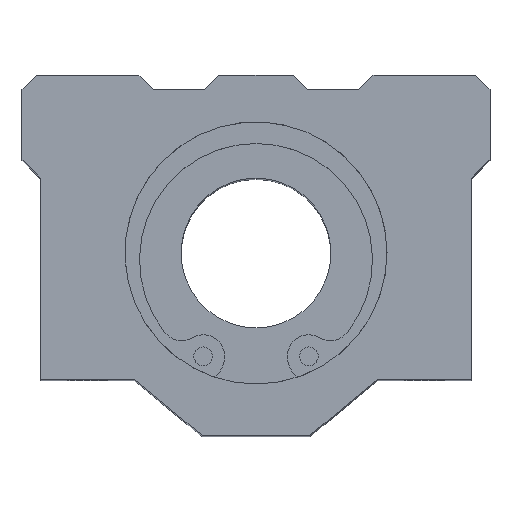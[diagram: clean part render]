
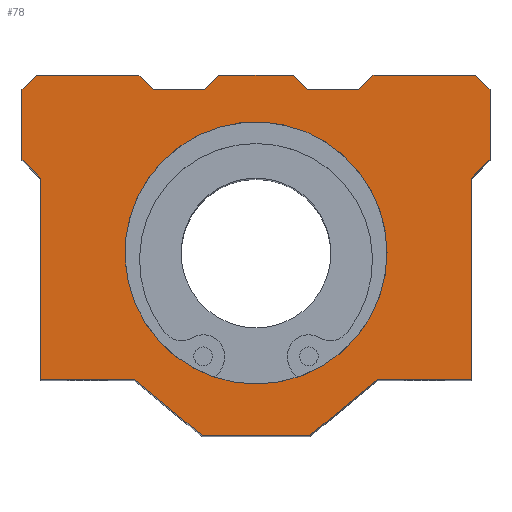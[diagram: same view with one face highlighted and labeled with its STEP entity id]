
A CAD part, top view. The second image highlights one B-rep face of the part: STEP entity #78.
In plain terms, the highlighted planar face has unit normal (0, 0, 1).
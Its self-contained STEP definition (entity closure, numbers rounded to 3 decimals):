
#78=ADVANCED_FACE('',(#150,#151),#152,.T.);
#150=FACE_OUTER_BOUND('',#311,.T.);
#151=FACE_BOUND('',#312,.T.);
#152=PLANE('',#313);
#311=EDGE_LOOP('',(#508,#509,#510,#511,#512,#513,#514,#515,#516,#517,#518,#519,#520,#521,#522,#523,#524,#525,#526,#527,#528,#529));
#312=EDGE_LOOP('',(#530));
#313=AXIS2_PLACEMENT_3D('',#531,#532,#533);
#508=ORIENTED_EDGE('',*,*,#993,.T.);
#509=ORIENTED_EDGE('',*,*,#994,.T.);
#510=ORIENTED_EDGE('',*,*,#995,.T.);
#511=ORIENTED_EDGE('',*,*,#996,.T.);
#512=ORIENTED_EDGE('',*,*,#997,.T.);
#513=ORIENTED_EDGE('',*,*,#998,.T.);
#514=ORIENTED_EDGE('',*,*,#999,.T.);
#515=ORIENTED_EDGE('',*,*,#1000,.T.);
#516=ORIENTED_EDGE('',*,*,#1001,.T.);
#517=ORIENTED_EDGE('',*,*,#1002,.T.);
#518=ORIENTED_EDGE('',*,*,#1003,.T.);
#519=ORIENTED_EDGE('',*,*,#1004,.T.);
#520=ORIENTED_EDGE('',*,*,#1005,.T.);
#521=ORIENTED_EDGE('',*,*,#1006,.T.);
#522=ORIENTED_EDGE('',*,*,#1007,.T.);
#523=ORIENTED_EDGE('',*,*,#1008,.T.);
#524=ORIENTED_EDGE('',*,*,#1009,.T.);
#525=ORIENTED_EDGE('',*,*,#1010,.T.);
#526=ORIENTED_EDGE('',*,*,#1011,.T.);
#527=ORIENTED_EDGE('',*,*,#1012,.T.);
#528=ORIENTED_EDGE('',*,*,#1013,.T.);
#529=ORIENTED_EDGE('',*,*,#1014,.T.);
#530=ORIENTED_EDGE('',*,*,#1015,.T.);
#531=CARTESIAN_POINT('',(-18.0,24.5,42.5));
#532=DIRECTION('',(0.0,-0.0,1.0));
#533=DIRECTION('',(0.0,1.0,0.0));
#993=EDGE_CURVE('',#1178,#1179,#1180,.T.);
#994=EDGE_CURVE('',#1179,#1181,#1182,.T.);
#995=EDGE_CURVE('',#1181,#1183,#1184,.T.);
#996=EDGE_CURVE('',#1183,#1185,#1186,.T.);
#997=EDGE_CURVE('',#1185,#1187,#1188,.T.);
#998=EDGE_CURVE('',#1187,#1189,#1190,.T.);
#999=EDGE_CURVE('',#1189,#1191,#1192,.T.);
#1000=EDGE_CURVE('',#1191,#1193,#1194,.T.);
#1001=EDGE_CURVE('',#1193,#1195,#1196,.T.);
#1002=EDGE_CURVE('',#1195,#1197,#1198,.T.);
#1003=EDGE_CURVE('',#1197,#1199,#1200,.T.);
#1004=EDGE_CURVE('',#1199,#1201,#1202,.T.);
#1005=EDGE_CURVE('',#1201,#1203,#1204,.T.);
#1006=EDGE_CURVE('',#1203,#1205,#1206,.T.);
#1007=EDGE_CURVE('',#1205,#1207,#1208,.T.);
#1008=EDGE_CURVE('',#1207,#1209,#1210,.T.);
#1009=EDGE_CURVE('',#1209,#1211,#1212,.T.);
#1010=EDGE_CURVE('',#1211,#1213,#1214,.T.);
#1011=EDGE_CURVE('',#1213,#1215,#1216,.T.);
#1012=EDGE_CURVE('',#1215,#1217,#1218,.T.);
#1013=EDGE_CURVE('',#1217,#1219,#1220,.T.);
#1014=EDGE_CURVE('',#1219,#1178,#1221,.T.);
#1015=EDGE_CURVE('',#1222,#1222,#1223,.F.);
#1178=VERTEX_POINT('',#1460);
#1179=VERTEX_POINT('',#1461);
#1180=LINE('',#1462,#1463);
#1181=VERTEX_POINT('',#1464);
#1182=LINE('',#1465,#1466);
#1183=VERTEX_POINT('',#1467);
#1184=LINE('',#1468,#1469);
#1185=VERTEX_POINT('',#1470);
#1186=LINE('',#1471,#1472);
#1187=VERTEX_POINT('',#1473);
#1188=LINE('',#1474,#1475);
#1189=VERTEX_POINT('',#1476);
#1190=LINE('',#1477,#1478);
#1191=VERTEX_POINT('',#1479);
#1192=LINE('',#1480,#1481);
#1193=VERTEX_POINT('',#1482);
#1194=LINE('',#1483,#1484);
#1195=VERTEX_POINT('',#1485);
#1196=LINE('',#1486,#1487);
#1197=VERTEX_POINT('',#1488);
#1198=LINE('',#1489,#1490);
#1199=VERTEX_POINT('',#1491);
#1200=LINE('',#1492,#1493);
#1201=VERTEX_POINT('',#1494);
#1202=LINE('',#1495,#1496);
#1203=VERTEX_POINT('',#1497);
#1204=LINE('',#1498,#1499);
#1205=VERTEX_POINT('',#1500);
#1206=LINE('',#1501,#1502);
#1207=VERTEX_POINT('',#1503);
#1208=LINE('',#1504,#1505);
#1209=VERTEX_POINT('',#1506);
#1210=LINE('',#1507,#1508);
#1211=VERTEX_POINT('',#1509);
#1212=LINE('',#1510,#1511);
#1213=VERTEX_POINT('',#1512);
#1214=LINE('',#1513,#1514);
#1215=VERTEX_POINT('',#1515);
#1216=LINE('',#1516,#1517);
#1217=VERTEX_POINT('',#1518);
#1218=LINE('',#1519,#1520);
#1219=VERTEX_POINT('',#1521);
#1220=LINE('',#1522,#1523);
#1221=LINE('',#1524,#1525);
#1222=VERTEX_POINT('',#1526);
#1223=CIRCLE('',#1527,14.0);
#1460=CARTESIAN_POINT('',(-11.0,17.5,42.5));
#1461=CARTESIAN_POINT('',(-12.5,19.0,42.5));
#1462=CARTESIAN_POINT('',(-11.0,17.5,42.5));
#1463=VECTOR('',#1775,1.0);
#1464=CARTESIAN_POINT('',(-23.5,19.0,42.5));
#1465=CARTESIAN_POINT('',(-12.5,19.0,42.5));
#1466=VECTOR('',#1776,1.0);
#1467=CARTESIAN_POINT('',(-25.0,17.5,42.5));
#1468=CARTESIAN_POINT('',(-23.5,19.0,42.5));
#1469=VECTOR('',#1777,1.0);
#1470=CARTESIAN_POINT('',(-25.0,10.0,42.5));
#1471=CARTESIAN_POINT('',(-25.0,17.5,42.5));
#1472=VECTOR('',#1778,1.0);
#1473=CARTESIAN_POINT('',(-23.0,8.0,42.5));
#1474=CARTESIAN_POINT('',(-25.0,10.0,42.5));
#1475=VECTOR('',#1779,1.0);
#1476=CARTESIAN_POINT('',(-23.0,-13.5,42.5));
#1477=CARTESIAN_POINT('',(-23.0,8.0,42.5));
#1478=VECTOR('',#1780,1.0);
#1479=CARTESIAN_POINT('',(-13.0,-13.5,42.5));
#1480=CARTESIAN_POINT('',(-23.0,-13.5,42.5));
#1481=VECTOR('',#1781,1.0);
#1482=CARTESIAN_POINT('',(-5.75,-19.5,42.5));
#1483=CARTESIAN_POINT('',(-13.0,-13.5,42.5));
#1484=VECTOR('',#1782,1.0);
#1485=CARTESIAN_POINT('',(5.75,-19.5,42.5));
#1486=CARTESIAN_POINT('',(-5.75,-19.5,42.5));
#1487=VECTOR('',#1783,1.0);
#1488=CARTESIAN_POINT('',(13.0,-13.5,42.5));
#1489=CARTESIAN_POINT('',(5.75,-19.5,42.5));
#1490=VECTOR('',#1784,1.0);
#1491=CARTESIAN_POINT('',(23.0,-13.5,42.5));
#1492=CARTESIAN_POINT('',(13.0,-13.5,42.5));
#1493=VECTOR('',#1785,1.0);
#1494=CARTESIAN_POINT('',(23.0,8.0,42.5));
#1495=CARTESIAN_POINT('',(23.0,-13.5,42.5));
#1496=VECTOR('',#1786,1.0);
#1497=CARTESIAN_POINT('',(25.0,10.0,42.5));
#1498=CARTESIAN_POINT('',(23.0,8.0,42.5));
#1499=VECTOR('',#1787,1.0);
#1500=CARTESIAN_POINT('',(25.0,17.5,42.5));
#1501=CARTESIAN_POINT('',(25.0,10.0,42.5));
#1502=VECTOR('',#1788,1.0);
#1503=CARTESIAN_POINT('',(23.5,19.0,42.5));
#1504=CARTESIAN_POINT('',(25.0,17.5,42.5));
#1505=VECTOR('',#1789,1.0);
#1506=CARTESIAN_POINT('',(12.5,19.0,42.5));
#1507=CARTESIAN_POINT('',(23.5,19.0,42.5));
#1508=VECTOR('',#1790,1.0);
#1509=CARTESIAN_POINT('',(11.0,17.5,42.5));
#1510=CARTESIAN_POINT('',(12.5,19.0,42.5));
#1511=VECTOR('',#1791,1.0);
#1512=CARTESIAN_POINT('',(5.5,17.5,42.5));
#1513=CARTESIAN_POINT('',(11.0,17.5,42.5));
#1514=VECTOR('',#1792,1.0);
#1515=CARTESIAN_POINT('',(4.0,19.0,42.5));
#1516=CARTESIAN_POINT('',(5.5,17.5,42.5));
#1517=VECTOR('',#1793,1.0);
#1518=CARTESIAN_POINT('',(-4.0,19.0,42.5));
#1519=CARTESIAN_POINT('',(4.0,19.0,42.5));
#1520=VECTOR('',#1794,1.0);
#1521=CARTESIAN_POINT('',(-5.5,17.5,42.5));
#1522=CARTESIAN_POINT('',(-4.0,19.0,42.5));
#1523=VECTOR('',#1795,1.0);
#1524=CARTESIAN_POINT('',(-5.5,17.5,42.5));
#1525=VECTOR('',#1796,1.0);
#1526=CARTESIAN_POINT('',(14.0,0.,42.5));
#1527=AXIS2_PLACEMENT_3D('',#1797,#1798,#1799);
#1775=DIRECTION('',(-0.707,0.707,0.0));
#1776=DIRECTION('',(-1.0,0.0,0.0));
#1777=DIRECTION('',(-0.707,-0.707,0.0));
#1778=DIRECTION('',(0.0,-1.0,0.0));
#1779=DIRECTION('',(0.707,-0.707,0.0));
#1780=DIRECTION('',(0.0,-1.0,0.0));
#1781=DIRECTION('',(1.0,0.0,0.0));
#1782=DIRECTION('',(0.77,-0.638,0.0));
#1783=DIRECTION('',(1.0,0.0,0.0));
#1784=DIRECTION('',(0.77,0.638,0.0));
#1785=DIRECTION('',(1.0,0.0,0.0));
#1786=DIRECTION('',(0.0,1.0,0.0));
#1787=DIRECTION('',(0.707,0.707,0.0));
#1788=DIRECTION('',(0.0,1.0,0.0));
#1789=DIRECTION('',(-0.707,0.707,0.0));
#1790=DIRECTION('',(-1.0,0.0,0.0));
#1791=DIRECTION('',(-0.707,-0.707,0.0));
#1792=DIRECTION('',(-1.0,0.0,0.0));
#1793=DIRECTION('',(-0.707,0.707,0.0));
#1794=DIRECTION('',(-1.0,0.0,0.0));
#1795=DIRECTION('',(-0.707,-0.707,0.0));
#1796=DIRECTION('',(-1.0,0.0,0.0));
#1797=CARTESIAN_POINT('',(0.0,0.0,42.5));
#1798=DIRECTION('',(0.0,0.0,1.0));
#1799=DIRECTION('',(1.0,0.0,0.0));
